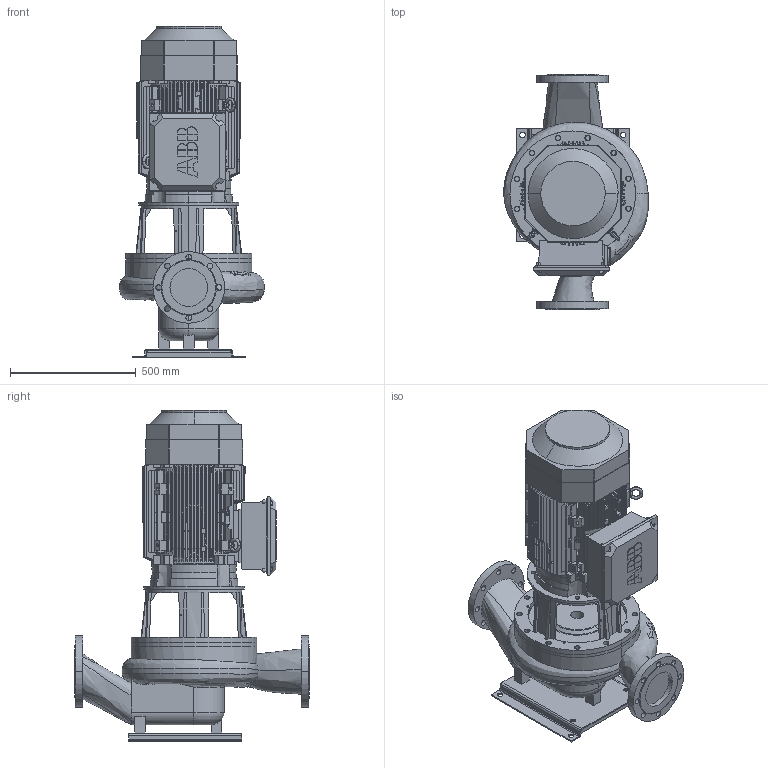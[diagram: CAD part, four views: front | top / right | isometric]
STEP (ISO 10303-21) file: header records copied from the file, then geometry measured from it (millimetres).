
FILE_DESCRIPTION(('STEP AP214'),'1');
FILE_NAME('export.stp','2018-06-06T11:50:07',(' '),(' '),'Spatial InterOp 3D',' ',' ');
FILE_SCHEMA(('AUTOMOTIVE_DESIGN { 1 0 10303 214 1 1 1 1 }'));
Length unit declared in the file: millimetre
Products named in the file (20): W_L150S4300-IEC; V_TLL125SAL1250; P100935; IEC-200; -simplified-simplified_parts_Sta; 3GZV183002-193006-183002-183999_; 3GZV311000-999999-324000-324001_; -simplified-simplified_parts_Ter; 3GZV244000-310999-294000-299999_; -simplified-simplified_parts_M32; -simplified-simplified_parts_Fan; Implementation-STANDARD_PARTS_Li; W_L150S_withBase; W_L_150S_pump_new; P100464; P100462; P101191
Assembly tree (21 placements, depth 4):
  W_L150S4300-IEC
    V_TLL125SAL1250
    P100935
    IEC-200
      -simplified-simplified_parts_Sta
      3GZV183002-193006-183002-183999_
      3GZV311000-999999-324000-324001_
      -simplified-simplified_parts_Ter
      -simplified-simplified_parts_Ter
      3GZV244000-310999-294000-299999_
      3GZV244000-310999-294000-299999_
      3GZV244000-310999-294000-299999_
      -simplified-simplified_parts_M32
      -simplified-simplified_parts_Fan
      Implementation-STANDARD_PARTS_Li  x2
    W_L150S_withBase
      W_L_150S_pump_new
      P100464
        P100462
        P101191  x2
Bounding box: 576.09 x 935 x 1319.57 mm (x, y, z)
Volume: 148317407.5 mm3; surface area: 6934278.7 mm2
Topology: 13 solids, 262 shells, 2151 faces, 6512 edges, 4642 vertices
Faces by surface type: bspline 1716, cylinder 221, plane 168, cone 38, torus 8
Entity records: 113036 total; most frequent: CARTESIAN_POINT 38635, ORIENTED_EDGE 11430, EDGE_CURVE 6251, STYLED_ITEM 5912, PRESENTATION_STYLE_ASSIGNMENT 5912, COLOUR_RGB 5912, VERTEX_POINT 4440, CURVE_STYLE 3964
